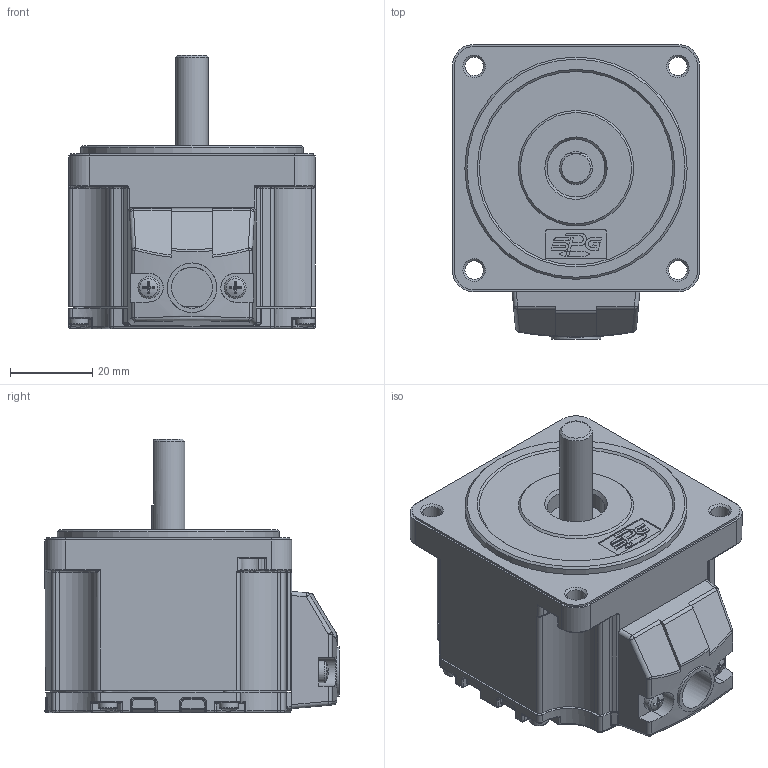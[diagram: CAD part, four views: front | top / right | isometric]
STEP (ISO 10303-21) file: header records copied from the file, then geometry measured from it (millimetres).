
FILE_DESCRIPTION(/* description */ (''),/* implementation_level */ '2;1');
FILE_NAME(/* name */ 'Y:\제품연구개발\4. 개발프로젝트\2. 프로젝트_제품군별\5. STANDARD BLDC\07_외부 발송용 자료\1_홈페이지 자료 2D 3D\3D\XFA_3D\XFA_3D\XFA_3D\XFM6 (D-CUT TYPE).stp',/* time_stamp */ '2021-08-12T11:58:30+09:00',/* author */ ('jingon'),/* organization */ (''),/* preprocessor_version */ 'ST-DEVELOPER v18',/* originating_system */ 'Autodesk Inventor 2020',/* authorisation */ '');
FILE_SCHEMA (('AUTOMOTIVE_DESIGN { 1 0 10303 214 3 1 1 }'));
Length unit declared in the file: millimetre
Products named in the file (1): XFM6 (D-CUT TYPE)
Bounding box: 60 x 71.5 x 66.5 mm (x, y, z)
Volume: 142134.9 mm3; surface area: 26981.8 mm2
Topology: 1 solids, 4 shells, 825 faces, 2121 edges, 1298 vertices
Faces by surface type: cylinder 280, plane 217, torus 129, bspline 95, cone 84, sphere 20
Full cylindrical faces by diameter (mm): 2.256 x4, 2.5 x4, 2.6 x4, 2.729 x2, 3 x6, 3.5 x2, 4.5 x4, 4.7 x4, 5.3 x2, 8 x1, 10 x1, 12 x1, 14 x1, 46 x1, 54 x1, 57.5 x2
Entity records: 28097 total; most frequent: CARTESIAN_POINT 7935, DIRECTION 4380, ORIENTED_EDGE 4180, EDGE_CURVE 2090, AXIS2_PLACEMENT_3D 1805, VERTEX_POINT 1298, CIRCLE 974, EDGE_LOOP 869
